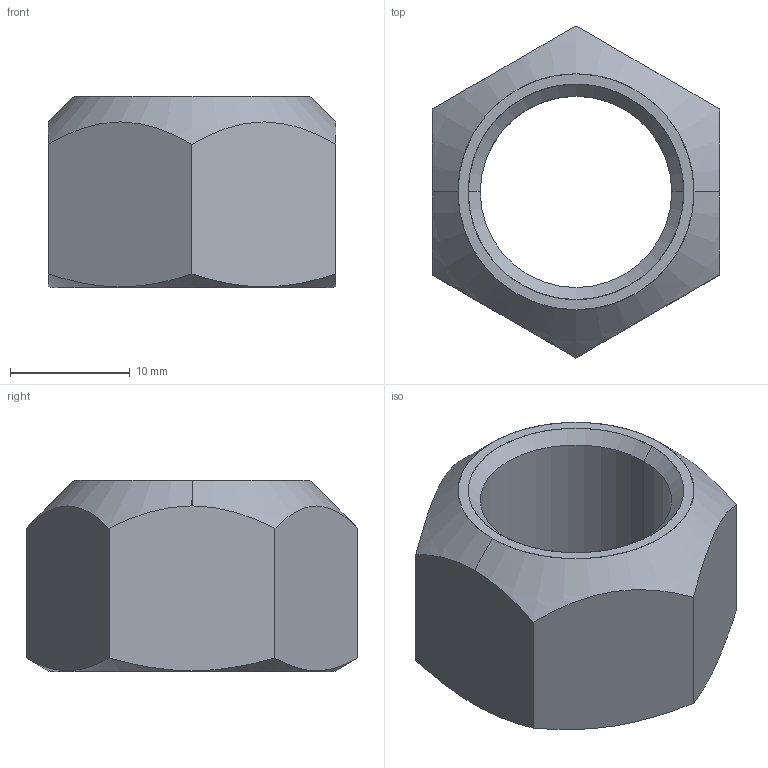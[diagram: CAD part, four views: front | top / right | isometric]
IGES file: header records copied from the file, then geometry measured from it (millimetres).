
Start section: SolidWorks IGES file using analytic representation for surfaces
Global section: file name: C:\Users\liam_\OneDrive\Documents\WORK\Work for WixRoyd\Job Files\J-00021 - Matt Davis CAD Checking\04. CAD Drawings\automotion20190729\P0308.ZP_v2\P0308.ZP_v2_20190913_IGES\P0308.160-ZP.igs; native system: SolidWorks 2017; preprocessor: SolidWorks 2017; author: liam_; date: 190913.214249; units: millimetre
Bounding box: 24 x 27.71 x 16 mm (x, y, z)
Surface area: 2494.2 mm2 (no closed solid volume)
Topology: 0 solids, 0 shells, 18 faces, 368 edges, 368 vertices
Faces by surface type: revolution 10, bspline 8
